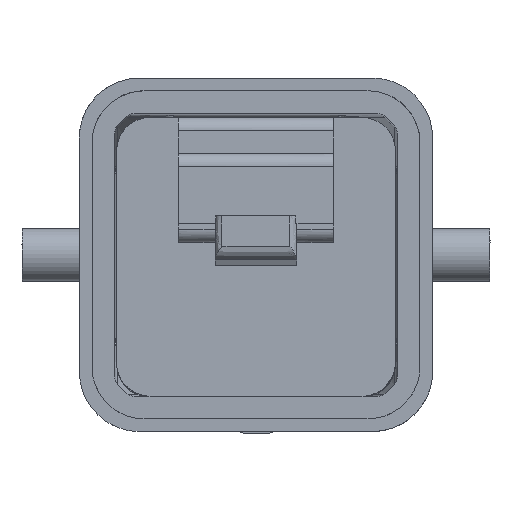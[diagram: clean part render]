
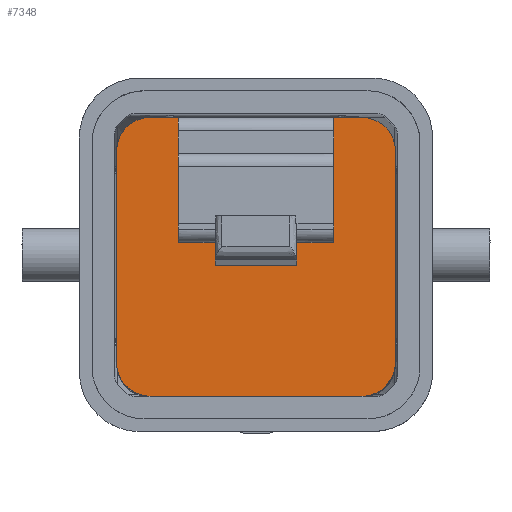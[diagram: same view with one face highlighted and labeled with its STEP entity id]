
A CAD part, top view. The second image highlights one B-rep face of the part: STEP entity #7348.
In plain terms, the highlighted free-form (B-spline) face has degree [1, 1] with [2, 2] control points.
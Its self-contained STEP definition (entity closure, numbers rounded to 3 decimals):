
#5298=CARTESIAN_POINT('V117',(8.2,23.1,
   -2.9));
#5299=VERTEX_POINT('V117',#5298);
#5305=CARTESIAN_POINT('V53',(10.7,20.6,
   -2.9));
#5306=VERTEX_POINT('V53',#5305);
#5307=CARTESIAN_POINT('E150',(8.2,23.1,
   -2.9));
#5308=CARTESIAN_POINT('E150',(10.7,23.1,
   -2.9));
#5309=CARTESIAN_POINT('E150',(10.7,20.6,
   -2.9));
#5317=(BOUNDED_CURVE()B_SPLINE_CURVE(2,(#5307,#5308,#5309),
   .CIRCULAR_ARC.,.F.,.U.)CURVE()GEOMETRIC_REPRESENTATION_ITEM()
   QUASI_UNIFORM_CURVE()RATIONAL_B_SPLINE_CURVE((1.0,
   0.707,1.0))REPRESENTATION_ITEM('E150'));
#5318=EDGE_CURVE('E150',#5299,#5306,#5317,.T.);
#5403=CARTESIAN_POINT('V50',(10.7,4.7,
   -2.9));
#5404=VERTEX_POINT('V50',#5403);
#5405=CARTESIAN_POINT('E62',(10.7,20.6,
   -2.9));
#5406=CARTESIAN_POINT('E62',(10.7,4.7,
   -2.9));
#5407=QUASI_UNIFORM_CURVE('E62',1,(#5405,#5406),.POLYLINE_FORM.,.F.,
   .U.);
#5408=EDGE_CURVE('E62',#5306,#5404,#5407,.T.);
#6394=CARTESIAN_POINT('V7',(8.2,2.2,
   -2.9));
#6395=VERTEX_POINT('V7',#6394);
#6396=CARTESIAN_POINT('E57',(10.7,4.7,
   -2.9));
#6397=CARTESIAN_POINT('E57',(10.7,2.2,
   -2.9));
#6398=CARTESIAN_POINT('E57',(8.2,2.2,
   -2.9));
#6406=(BOUNDED_CURVE()B_SPLINE_CURVE(2,(#6396,#6397,#6398),
   .CIRCULAR_ARC.,.F.,.U.)CURVE()GEOMETRIC_REPRESENTATION_ITEM()
   QUASI_UNIFORM_CURVE()RATIONAL_B_SPLINE_CURVE((1.0,
   0.707,1.0))REPRESENTATION_ITEM('E57'));
#6407=EDGE_CURVE('E57',#5404,#6395,#6406,.T.);
#6431=CARTESIAN_POINT('V8',(-7.7,2.2,
   -2.9));
#6432=VERTEX_POINT('V8',#6431);
#6433=CARTESIAN_POINT('E9',(8.2,2.2,
   -2.9));
#6434=CARTESIAN_POINT('E9',(-7.7,2.2,
   -2.9));
#6435=QUASI_UNIFORM_CURVE('E9',1,(#6433,#6434),.POLYLINE_FORM.,.F.,
   .U.);
#6436=EDGE_CURVE('E9',#6395,#6432,#6435,.T.);
#6483=CARTESIAN_POINT('V56',(-10.2,4.7,
   -2.9));
#6484=VERTEX_POINT('V56',#6483);
#6485=CARTESIAN_POINT('E69',(-7.7,2.2,
   -2.9));
#6486=CARTESIAN_POINT('E69',(-10.2,2.2,
   -2.9));
#6487=CARTESIAN_POINT('E69',(-10.2,4.7,
   -2.9));
#6495=(BOUNDED_CURVE()B_SPLINE_CURVE(2,(#6485,#6486,#6487),
   .CIRCULAR_ARC.,.F.,.U.)CURVE()GEOMETRIC_REPRESENTATION_ITEM()
   QUASI_UNIFORM_CURVE()RATIONAL_B_SPLINE_CURVE((1.0,
   0.707,1.0))REPRESENTATION_ITEM('E69'));
#6496=EDGE_CURVE('E69',#6432,#6484,#6495,.T.);
#7226=CARTESIAN_POINT('V57',(-10.2,20.6,
   -2.9));
#7227=VERTEX_POINT('V57',#7226);
#7228=CARTESIAN_POINT('E67',(-10.2,4.7,
   -2.9));
#7229=CARTESIAN_POINT('E67',(-10.2,20.6,
   -2.9));
#7230=QUASI_UNIFORM_CURVE('E67',1,(#7228,#7229),.POLYLINE_FORM.,.F.,
   .U.);
#7231=EDGE_CURVE('E67',#6484,#7227,#7230,.T.);
#7278=CARTESIAN_POINT('V118',(-7.7,23.1,
   -2.9));
#7279=VERTEX_POINT('V118',#7278);
#7280=CARTESIAN_POINT('E151',(-10.2,20.6,
   -2.9));
#7281=CARTESIAN_POINT('E151',(-10.2,23.1,
   -2.9));
#7282=CARTESIAN_POINT('E151',(-7.7,23.1,
   -2.9));
#7290=(BOUNDED_CURVE()B_SPLINE_CURVE(2,(#7280,#7281,#7282),
   .CIRCULAR_ARC.,.F.,.U.)CURVE()GEOMETRIC_REPRESENTATION_ITEM()
   QUASI_UNIFORM_CURVE()RATIONAL_B_SPLINE_CURVE((1.0,
   0.707,1.0))REPRESENTATION_ITEM('E151'));
#7291=EDGE_CURVE('E151',#7227,#7279,#7290,.T.);
#7301=CARTESIAN_POINT('F260',(-11.245,1.155,
   -2.9));
#7302=CARTESIAN_POINT('F260',(11.745,1.155,
   -2.9));
#7303=CARTESIAN_POINT('F260',(-11.245,24.145,
   -2.9));
#7304=CARTESIAN_POINT('F260',(11.745,24.145,
   -2.9));
#7305=QUASI_UNIFORM_SURFACE('F260',1,1,((#7301,#7303),(#7302,
   #7304)),.PLANE_SURF.,.F.,.F.,.U.);
#7306=CARTESIAN_POINT('V482',(6.07,13.7,
   -2.9));
#7307=VERTEX_POINT('V482',#7306);
#7308=CARTESIAN_POINT('V481',(-5.57,13.7,
   -2.9));
#7309=VERTEX_POINT('V481',#7308);
#7310=CARTESIAN_POINT('E715',(6.07,13.7,
   -2.9));
#7311=CARTESIAN_POINT('E715',(-5.57,13.7,
   -2.9));
#7312=QUASI_UNIFORM_CURVE('E715',1,(#7310,#7311),.POLYLINE_FORM.,.F.,
   .U.);
#7313=EDGE_CURVE('E715',#7307,#7309,#7312,.T.);
#7314=ORIENTED_EDGE('E715',*,*,#7313,.T.);
#7315=CARTESIAN_POINT('V484',(-5.57,23.1,
   -2.9));
#7316=VERTEX_POINT('V484',#7315);
#7317=CARTESIAN_POINT('E720',(-5.57,13.7,
   -2.9));
#7318=CARTESIAN_POINT('E720',(-5.57,23.099,
   -2.9));
#7319=QUASI_UNIFORM_CURVE('E720',1,(#7317,#7318),.POLYLINE_FORM.,.F.,
   .U.);
#7320=EDGE_CURVE('E720',#7309,#7316,#7319,.T.);
#7321=ORIENTED_EDGE('E720',*,*,#7320,.T.);
#7322=CARTESIAN_POINT('E721',(-7.7,23.1,
   -2.9));
#7323=CARTESIAN_POINT('E721',(-5.57,23.1,
   -2.9));
#7324=B_SPLINE_CURVE_WITH_KNOTS('E721',1,(#7322,#7323),
   .POLYLINE_FORM.,.F.,.U.,(2,2),(0.0,0.134),
   .UNSPECIFIED.);
#7325=EDGE_CURVE('E721',#7279,#7316,#7324,.T.);
#7326=ORIENTED_EDGE('E721',*,*,#7325,.F.);
#7327=ORIENTED_EDGE('E151',*,*,#7291,.F.);
#7328=ORIENTED_EDGE('E67',*,*,#7231,.F.);
#7329=ORIENTED_EDGE('E69',*,*,#6496,.F.);
#7330=ORIENTED_EDGE('E9',*,*,#6436,.F.);
#7331=ORIENTED_EDGE('E57',*,*,#6407,.F.);
#7332=ORIENTED_EDGE('E62',*,*,#5408,.F.);
#7333=ORIENTED_EDGE('E150',*,*,#5318,.F.);
#7334=CARTESIAN_POINT('V483',(6.07,23.1,
   -2.9));
#7335=VERTEX_POINT('V483',#7334);
#7336=CARTESIAN_POINT('E722',(6.07,23.1,
   -2.9));
#7337=CARTESIAN_POINT('E722',(8.2,23.1,
   -2.9));
#7338=B_SPLINE_CURVE_WITH_KNOTS('E722',1,(#7336,#7337),
   .POLYLINE_FORM.,.F.,.U.,(2,2),(0.866,1.0),
   .UNSPECIFIED.);
#7339=EDGE_CURVE('E722',#7335,#5299,#7338,.T.);
#7340=ORIENTED_EDGE('E722',*,*,#7339,.F.);
#7341=CARTESIAN_POINT('E717',(6.07,23.099,
   -2.9));
#7342=CARTESIAN_POINT('E717',(6.07,13.7,
   -2.9));
#7343=QUASI_UNIFORM_CURVE('E717',1,(#7341,#7342),.POLYLINE_FORM.,.F.,
   .U.);
#7344=EDGE_CURVE('E717',#7335,#7307,#7343,.T.);
#7345=ORIENTED_EDGE('E717',*,*,#7344,.T.);
#7346=EDGE_LOOP('F260',(#7314,#7321,#7326,#7327,#7328,#7329,#7330,
   #7331,#7332,#7333,#7340,#7345));
#7347=FACE_OUTER_BOUND('F260',#7346,.T.);
#7348=ADVANCED_FACE('F260',(#7347),#7305,.T.);
